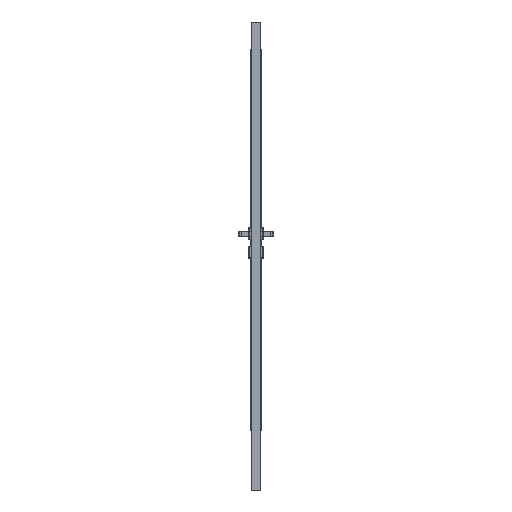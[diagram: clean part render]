
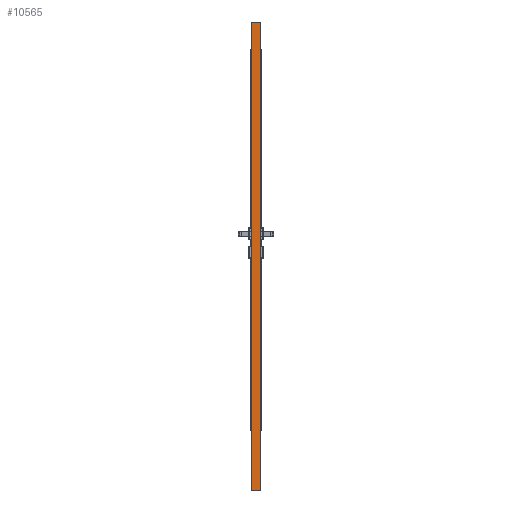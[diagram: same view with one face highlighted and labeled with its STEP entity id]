
A CAD part, left-side view. The second image highlights one B-rep face of the part: STEP entity #10565.
In plain terms, the highlighted planar face has unit normal (-1, 0, 0).
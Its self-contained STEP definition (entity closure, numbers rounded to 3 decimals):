
#6593=FACE_OUTER_BOUND('',#18059,.T.);
#10565=ADVANCED_FACE('',(#6593),#14157,.F.);
#14157=PLANE('',#72606);
#18059=EDGE_LOOP('',(#24343,#24344,#24345,#24346,#24347,#24348));
#24343=ORIENTED_EDGE('',*,*,#49439,.T.);
#24344=ORIENTED_EDGE('',*,*,#49440,.T.);
#24345=ORIENTED_EDGE('',*,*,#49441,.T.);
#24346=ORIENTED_EDGE('',*,*,#49442,.T.);
#24347=ORIENTED_EDGE('',*,*,#49443,.F.);
#24348=ORIENTED_EDGE('',*,*,#49444,.F.);
#42331=VERTEX_POINT('',#98142);
#42332=VERTEX_POINT('',#98143);
#42333=VERTEX_POINT('',#98145);
#42334=VERTEX_POINT('',#98147);
#42335=VERTEX_POINT('',#98149);
#42336=VERTEX_POINT('',#98151);
#49439=EDGE_CURVE('',#42331,#42332,#58745,.T.);
#49440=EDGE_CURVE('',#42332,#42333,#58746,.T.);
#49441=EDGE_CURVE('',#42333,#42334,#58747,.T.);
#49442=EDGE_CURVE('',#42334,#42335,#58748,.T.);
#49443=EDGE_CURVE('',#42336,#42335,#58749,.T.);
#49444=EDGE_CURVE('',#42331,#42336,#58750,.T.);
#58745=LINE('',#98141,#65531);
#58746=LINE('',#98144,#65532);
#58747=LINE('',#98146,#65533);
#58748=LINE('',#98148,#65534);
#58749=LINE('',#98150,#65535);
#58750=LINE('',#98152,#65536);
#65531=VECTOR('',#78094,1.);
#65532=VECTOR('',#78095,1.);
#65533=VECTOR('',#78096,1.);
#65534=VECTOR('',#78097,1.);
#65535=VECTOR('',#78098,1.);
#65536=VECTOR('',#78099,1.);
#72606=AXIS2_PLACEMENT_3D('',#98153,#78100,#78101);
#78094=DIRECTION('',(0.,0.,-1.));
#78095=DIRECTION('',(0.,-0.707,-0.707));
#78096=DIRECTION('',(0.,-1.,0.));
#78097=DIRECTION('',(0.,-0.707,0.707));
#78098=DIRECTION('',(0.,0.,-1.));
#78099=DIRECTION('',(0.,-1.,0.));
#78100=DIRECTION('',(1.,0.,0.));
#78101=DIRECTION('',(0.,0.,-1.));
#98141=CARTESIAN_POINT('',(-309.,0.,2017.));
#98142=CARTESIAN_POINT('',(-309.,0.,2017.));
#98143=CARTESIAN_POINT('',(-309.,0.,2.));
#98144=CARTESIAN_POINT('',(-309.,0.,2.));
#98145=CARTESIAN_POINT('',(-309.,-2.,0.));
#98146=CARTESIAN_POINT('',(-309.,0.,0.));
#98147=CARTESIAN_POINT('',(-309.,-37.3,0.));
#98148=CARTESIAN_POINT('',(-309.,-39.3,2.));
#98149=CARTESIAN_POINT('',(-309.,-39.3,2.));
#98150=CARTESIAN_POINT('',(-309.,-39.3,2017.));
#98151=CARTESIAN_POINT('',(-309.,-39.3,2017.));
#98152=CARTESIAN_POINT('',(-309.,0.,2017.));
#98153=CARTESIAN_POINT('',(-309.,0.,2017.));
